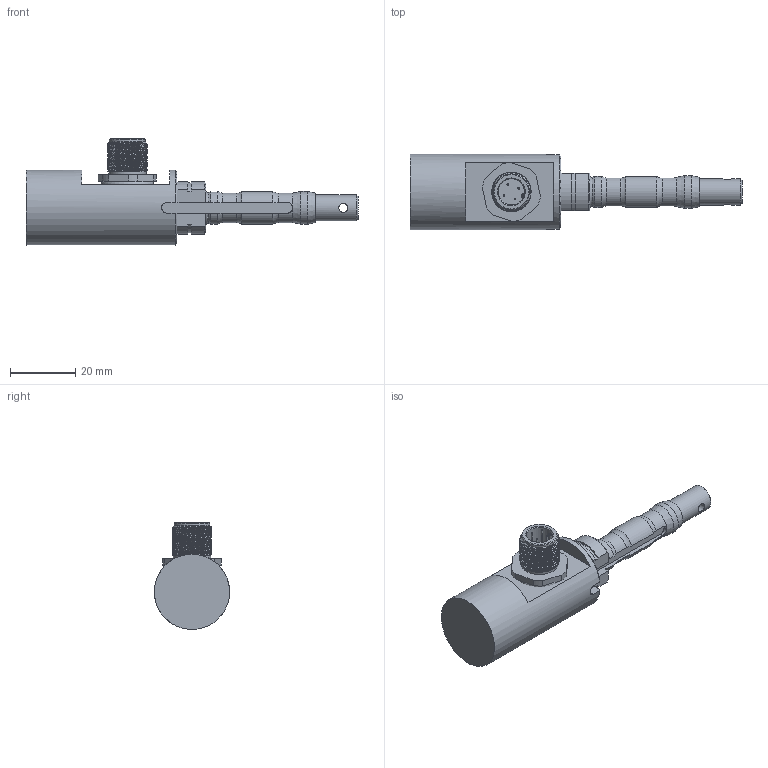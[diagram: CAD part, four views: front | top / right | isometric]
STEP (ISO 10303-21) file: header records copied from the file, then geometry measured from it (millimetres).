
FILE_DESCRIPTION(/* description */ ('Alibre Inc.'),/* implementation_level */ '2;1');
FILE_NAME(/* name */ 'export-47E78248-67B5-40E1-850C-F0B37A5D83A6',/* time_stamp */ '2019-04-11T10:02:47+02:00',/* author */ (''),/* organization */ (''),/* preprocessor_version */ 'ST-DEVELOPER v17',/* originating_system */ 'Alibre',/* authorisation */ '');
FILE_SCHEMA (('CONFIG_CONTROL_DESIGN'));
Length unit declared in the file: centimetre
Products named in the file (3): ID_1
Bounding box: 101.5 x 23 x 32.63 mm (x, y, z)
Surface area: 81395.3 mm2
Topology: 6 solids, 7 shells, 176 faces, 425 edges, 270 vertices
Faces by surface type: plane 70, cylinder 58, bspline 23, cone 17, torus 8
Full cylindrical faces by diameter (mm): 0.5 x8, 2.75 x1, 8 x3, 10 x2, 11 x1, 11.5 x1, 13 x2, 14.5 x1, 23 x1
Entity records: 15320 total; most frequent: CARTESIAN_POINT 11721, ORIENTED_EDGE 776, DIRECTION 488, EDGE_CURVE 381, VERTEX_POINT 255, EDGE_LOOP 226, FACE_BOUND 226, AXIS2_PLACEMENT_3D 206
